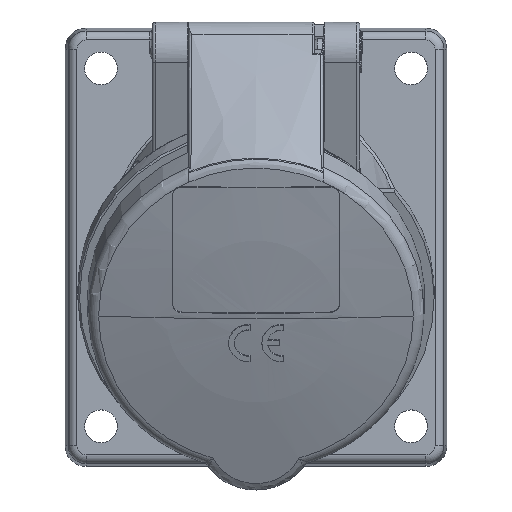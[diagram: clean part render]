
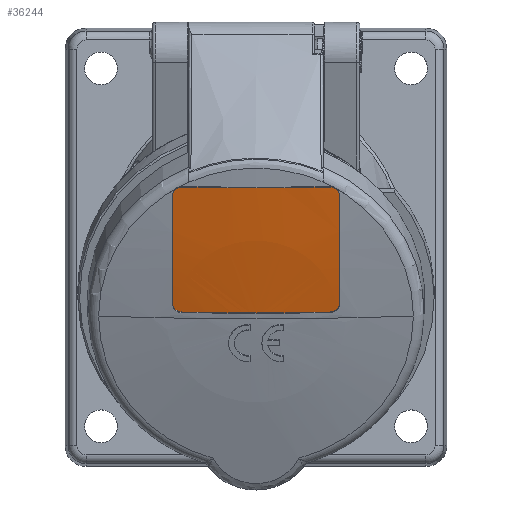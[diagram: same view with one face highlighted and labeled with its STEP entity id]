
A CAD part, front view. The second image highlights one B-rep face of the part: STEP entity #36244.
In plain terms, the highlighted spherical face has radius 249.7 mm.
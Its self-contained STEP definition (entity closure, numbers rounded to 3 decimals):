
#2883=CARTESIAN_POINT('',(14.,196.49,73.516));
#2884=DIRECTION('',(-1.,0.,0.));
#2885=DIRECTION('',(0.,-0.943,-0.333));
#2886=AXIS2_PLACEMENT_3D('',#2883,#2884,#2885);
#2888=CARTESIAN_POINT('',(14.,-38.626,-9.398));
#2889=CARTESIAN_POINT('',(14.,-38.604,-9.46));
#2890=CARTESIAN_POINT('',(13.991,-38.56,
-9.585));
#2891=CARTESIAN_POINT('',(13.952,-38.498,
-9.769));
#2892=CARTESIAN_POINT('',(13.888,-38.438,
-9.947));
#2893=CARTESIAN_POINT('',(13.8,-38.383,
-10.116));
#2894=CARTESIAN_POINT('',(13.689,-38.334,
-10.272));
#2895=CARTESIAN_POINT('',(13.558,-38.291,
-10.415));
#2896=CARTESIAN_POINT('',(13.408,-38.255,
-10.54));
#2897=CARTESIAN_POINT('',(13.242,-38.226,
-10.645));
#2898=CARTESIAN_POINT('',(13.063,-38.206,
-10.73));
#2899=CARTESIAN_POINT('',(12.876,-38.194,
-10.791));
#2900=CARTESIAN_POINT('',(12.686,-38.191,
-10.828));
#2901=CARTESIAN_POINT('',(12.561,-38.195,
-10.838));
#2902=CARTESIAN_POINT('',(12.5,-38.197,-10.839));
#2904=CARTESIAN_POINT('',(0.,196.148,74.456));
#2905=DIRECTION('',(0.,-0.342,0.94));
#2906=DIRECTION('',(-0.05,-0.939,-0.342));
#2907=AXIS2_PLACEMENT_3D('',#2904,#2905,#2906);
#2909=CARTESIAN_POINT('',(-12.5,-38.197,-10.839));
#2910=CARTESIAN_POINT('',(-12.561,-38.195,
-10.838));
#2911=CARTESIAN_POINT('',(-12.686,-38.191,
-10.828));
#2912=CARTESIAN_POINT('',(-12.876,-38.194,
-10.791));
#2913=CARTESIAN_POINT('',(-13.063,-38.206,
-10.73));
#2914=CARTESIAN_POINT('',(-13.242,-38.226,
-10.645));
#2915=CARTESIAN_POINT('',(-13.408,-38.255,
-10.54));
#2916=CARTESIAN_POINT('',(-13.558,-38.291,
-10.415));
#2917=CARTESIAN_POINT('',(-13.689,-38.334,
-10.272));
#2918=CARTESIAN_POINT('',(-13.8,-38.383,
-10.116));
#2919=CARTESIAN_POINT('',(-13.888,-38.438,
-9.947));
#2920=CARTESIAN_POINT('',(-13.952,-38.498,
-9.769));
#2921=CARTESIAN_POINT('',(-13.991,-38.56,
-9.585));
#2922=CARTESIAN_POINT('',(-14.,-38.604,-9.46));
#2923=CARTESIAN_POINT('',(-14.,-38.626,-9.398));
#2925=CARTESIAN_POINT('',(-14.,196.49,73.516));
#2926=DIRECTION('',(1.,0.,0.));
#2927=DIRECTION('',(0.,-0.966,-0.26));
#2928=AXIS2_PLACEMENT_3D('',#2925,#2926,#2927);
#2930=CARTESIAN_POINT('',(-14.,-44.263,8.769));
#2931=CARTESIAN_POINT('',(-14.,-44.28,8.833));
#2932=CARTESIAN_POINT('',(-13.991,-44.315,
8.96));
#2933=CARTESIAN_POINT('',(-13.953,-44.367,
9.147));
#2934=CARTESIAN_POINT('',(-13.889,-44.419,
9.327));
#2935=CARTESIAN_POINT('',(-13.802,-44.469,
9.496));
#2936=CARTESIAN_POINT('',(-13.693,-44.517,
9.653));
#2937=CARTESIAN_POINT('',(-13.563,-44.561,
9.794));
#2938=CARTESIAN_POINT('',(-13.415,-44.602,
9.917));
#2939=CARTESIAN_POINT('',(-13.252,-44.638,
10.02));
#2940=CARTESIAN_POINT('',(-13.075,-44.669,
10.101));
#2941=CARTESIAN_POINT('',(-12.889,-44.694,
10.159));
#2942=CARTESIAN_POINT('',(-12.696,-44.714,
10.193));
#2943=CARTESIAN_POINT('',(-12.565,-44.722,
10.199));
#2944=CARTESIAN_POINT('',(-12.5,-44.725,10.198));
#2946=CARTESIAN_POINT('',(0.,188.623,95.129));
#2947=DIRECTION('',(0.,0.342,-0.94));
#2948=DIRECTION('',(0.05,-0.939,-0.342));
#2949=AXIS2_PLACEMENT_3D('',#2946,#2947,#2948);
#2951=CARTESIAN_POINT('',(12.5,-44.725,10.198));
#2952=CARTESIAN_POINT('',(12.565,-44.722,10.199));
#2953=CARTESIAN_POINT('',(12.696,-44.714,10.193));
#2954=CARTESIAN_POINT('',(12.889,-44.694,10.159));
#2955=CARTESIAN_POINT('',(13.075,-44.669,10.101));
#2956=CARTESIAN_POINT('',(13.252,-44.638,10.02));
#2957=CARTESIAN_POINT('',(13.415,-44.602,9.917));
#2958=CARTESIAN_POINT('',(13.563,-44.561,9.794));
#2959=CARTESIAN_POINT('',(13.693,-44.517,9.653));
#2960=CARTESIAN_POINT('',(13.802,-44.469,9.496));
#2961=CARTESIAN_POINT('',(13.889,-44.419,9.327));
#2962=CARTESIAN_POINT('',(13.953,-44.367,9.147));
#2963=CARTESIAN_POINT('',(13.991,-44.315,8.96));
#2964=CARTESIAN_POINT('',(14.,-44.28,8.833));
#2965=CARTESIAN_POINT('',(14.,-44.263,8.769));
#29475=CARTESIAN_POINT('',(14.,-38.626,-9.398));
#29476=CARTESIAN_POINT('',(14.,-44.263,8.769));
#29477=VERTEX_POINT('',#29475);
#29478=VERTEX_POINT('',#29476);
#29483=CARTESIAN_POINT('',(12.5,-44.725,10.198));
#29484=CARTESIAN_POINT('',(-12.5,-44.725,10.198));
#29485=VERTEX_POINT('',#29483);
#29486=VERTEX_POINT('',#29484);
#29491=CARTESIAN_POINT('',(-14.,-44.263,8.769));
#29492=CARTESIAN_POINT('',(-14.,-38.626,-9.398));
#29493=VERTEX_POINT('',#29491);
#29494=VERTEX_POINT('',#29492);
#29499=CARTESIAN_POINT('',(-12.5,-38.197,-10.839));
#29500=CARTESIAN_POINT('',(12.5,-38.197,-10.839));
#29501=VERTEX_POINT('',#29499);
#29502=VERTEX_POINT('',#29500);
#36229=CARTESIAN_POINT('',(0.,196.49,73.516));
#36230=DIRECTION('',(0.,0.94,0.342));
#36231=DIRECTION('',(-1.,0.,0.));
#36232=AXIS2_PLACEMENT_3D('',#36229,#36230,#36231);
#36233=SPHERICAL_SURFACE('871',#36232,249.7);
#36234=ORIENTED_EDGE('4271',*,*,#36069,.F.);
#36235=ORIENTED_EDGE('4285',*,*,#36091,.T.);
#36236=ORIENTED_EDGE('4277',*,*,#36112,.F.);
#36237=ORIENTED_EDGE('4283',*,*,#36133,.T.);
#36238=ORIENTED_EDGE('4275',*,*,#36154,.F.);
#36239=ORIENTED_EDGE('4281',*,*,#36175,.T.);
#36240=ORIENTED_EDGE('4273',*,*,#36196,.F.);
#36241=ORIENTED_EDGE('4279',*,*,#36216,.T.);
#36242=EDGE_LOOP('871',(#36234,#36235,#36236,#36237,#36238,#36239,#36240,
#36241));
#36243=FACE_OUTER_BOUND('871',#36242,.F.);
#2887=CIRCLE('4271',#2886,249.307);
#2903=B_SPLINE_CURVE_WITH_KNOTS('4285',3,(#2888,#2889,#2890,#2891,#2892,#2893,
#2894,#2895,#2896,#2897,#2898,#2899,#2900,#2901,#2902),.UNSPECIFIED.,.F.,.F.,(4,
1,1,1,1,1,1,1,1,1,1,1,4),(0.,0.083,0.167,0.25,
0.333,0.417,0.5,0.583,0.667,
0.75,0.833,0.917,1.),.UNSPECIFIED.);
#2908=CIRCLE('4277',#2907,249.698);
#2924=B_SPLINE_CURVE_WITH_KNOTS('4283',3,(#2909,#2910,#2911,#2912,#2913,#2914,
#2915,#2916,#2917,#2918,#2919,#2920,#2921,#2922,#2923),.UNSPECIFIED.,.F.,.F.,(4,
1,1,1,1,1,1,1,1,1,1,1,4),(0.,0.083,0.167,0.25,
0.333,0.417,0.5,0.583,0.667,
0.75,0.833,0.917,1.),.UNSPECIFIED.);
#2929=CIRCLE('4275',#2928,249.307);
#2945=B_SPLINE_CURVE_WITH_KNOTS('4281',3,(#2930,#2931,#2932,#2933,#2934,#2935,
#2936,#2937,#2938,#2939,#2940,#2941,#2942,#2943,#2944),.UNSPECIFIED.,.F.,.F.,(4,
1,1,1,1,1,1,1,1,1,1,1,4),(0.,0.083,0.167,0.25,
0.333,0.417,0.5,0.583,0.667,
0.75,0.833,0.917,1.),.UNSPECIFIED.);
#2950=CIRCLE('4273',#2949,248.638);
#2966=B_SPLINE_CURVE_WITH_KNOTS('4279',3,(#2951,#2952,#2953,#2954,#2955,#2956,
#2957,#2958,#2959,#2960,#2961,#2962,#2963,#2964,#2965),.UNSPECIFIED.,.F.,.F.,(4,
1,1,1,1,1,1,1,1,1,1,1,4),(0.,0.083,0.167,0.25,
0.333,0.417,0.5,0.583,0.667,
0.75,0.833,0.917,1.),.UNSPECIFIED.);
#36069=EDGE_CURVE('4271',#29477,#29478,#2887,.T.);
#36091=EDGE_CURVE('4285',#29477,#29502,#2903,.T.);
#36112=EDGE_CURVE('4277',#29501,#29502,#2908,.T.);
#36133=EDGE_CURVE('4283',#29501,#29494,#2924,.T.);
#36154=EDGE_CURVE('4275',#29493,#29494,#2929,.T.);
#36175=EDGE_CURVE('4281',#29493,#29486,#2945,.T.);
#36196=EDGE_CURVE('4273',#29485,#29486,#2950,.T.);
#36216=EDGE_CURVE('4279',#29485,#29478,#2966,.T.);
#36244=ADVANCED_FACE('871',(#36243),#36233,.T.);
